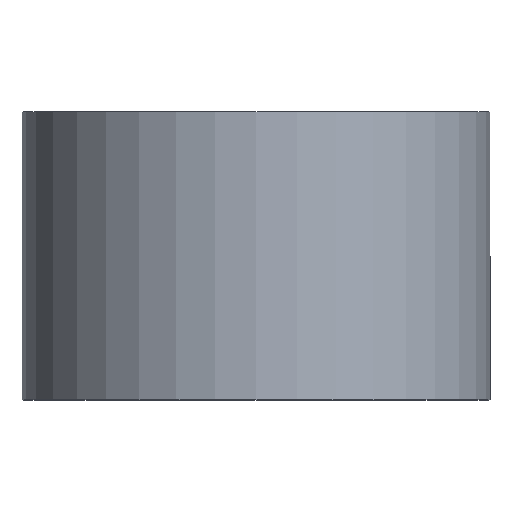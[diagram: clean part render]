
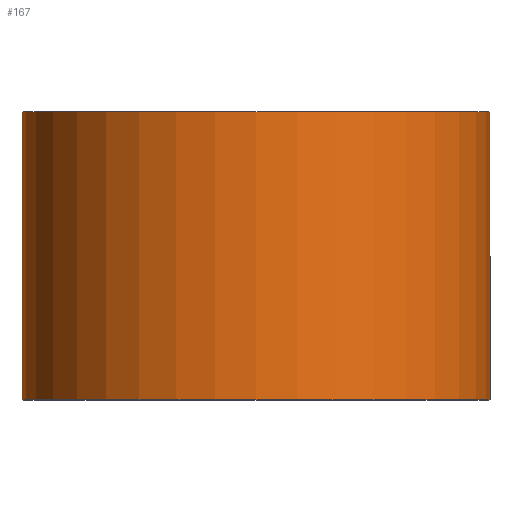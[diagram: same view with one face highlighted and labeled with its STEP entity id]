
A CAD part, top view. The second image highlights one B-rep face of the part: STEP entity #167.
In plain terms, the highlighted cylindrical face has radius 13 mm (diameter 26 mm), a partial arc.
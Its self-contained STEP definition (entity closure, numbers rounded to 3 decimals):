
#3 = LINE ( 'NONE', #77, #67 ) ;
#5 = CARTESIAN_POINT ( 'NONE',  ( -13., 0., 0. ) ) ;
#10 = CARTESIAN_POINT ( 'NONE',  ( 0., 16., 0. ) ) ;
#16 = DIRECTION ( 'NONE',  ( 0., 1., 0. ) ) ;
#20 = LINE ( 'NONE', #264, #36 ) ;
#30 = DIRECTION ( 'NONE',  ( -1., 0., 0. ) ) ;
#36 = VECTOR ( 'NONE', #243, 1000. ) ;
#40 = EDGE_LOOP ( 'NONE', ( #118, #157, #142, #113 ) ) ;
#42 = CARTESIAN_POINT ( 'NONE',  ( 13., 0., 0. ) ) ;
#47 = DIRECTION ( 'NONE',  ( -1., 0., 0. ) ) ;
#50 = CIRCLE ( 'NONE', #171, 13. ) ;
#65 = VERTEX_POINT ( 'NONE', #288 ) ;
#67 = VECTOR ( 'NONE', #154, 1000. ) ;
#68 = VERTEX_POINT ( 'NONE', #5 ) ;
#73 = EDGE_CURVE ( 'NONE', #65, #87, #50, .T. ) ;
#77 = CARTESIAN_POINT ( 'NONE',  ( 13., 0., 0. ) ) ;
#78 = CARTESIAN_POINT ( 'NONE',  ( 0., 0., 0. ) ) ;
#79 = EDGE_CURVE ( 'NONE', #68, #65, #20, .T. ) ;
#80 = CARTESIAN_POINT ( 'NONE',  ( 0., 0., 0. ) ) ;
#85 = CIRCLE ( 'NONE', #238, 13. ) ;
#87 = VERTEX_POINT ( 'NONE', #217 ) ;
#113 = ORIENTED_EDGE ( 'NONE', *, *, #79, .F. ) ;
#118 = ORIENTED_EDGE ( 'NONE', *, *, #189, .T. ) ;
#126 = VERTEX_POINT ( 'NONE', #42 ) ;
#142 = ORIENTED_EDGE ( 'NONE', *, *, #73, .F. ) ;
#154 = DIRECTION ( 'NONE',  ( 0., 1., 0. ) ) ;
#157 = ORIENTED_EDGE ( 'NONE', *, *, #279, .T. ) ;
#161 = DIRECTION ( 'NONE',  ( -1., 0., 0. ) ) ;
#167 = ADVANCED_FACE ( 'NONE', ( #257 ), #229, .T. ) ;
#171 = AXIS2_PLACEMENT_3D ( 'NONE', #10, #244, #47 ) ;
#189 = EDGE_CURVE ( 'NONE', #68, #126, #85, .T. ) ;
#203 = DIRECTION ( 'NONE',  ( 0., 1., 0. ) ) ;
#205 = AXIS2_PLACEMENT_3D ( 'NONE', #78, #16, #161 ) ;
#217 = CARTESIAN_POINT ( 'NONE',  ( 13., 16., 0. ) ) ;
#229 = CYLINDRICAL_SURFACE ( 'NONE', #205, 13. ) ;
#238 = AXIS2_PLACEMENT_3D ( 'NONE', #80, #203, #30 ) ;
#243 = DIRECTION ( 'NONE',  ( 0., 1., 0. ) ) ;
#244 = DIRECTION ( 'NONE',  ( 0., 1., 0. ) ) ;
#257 = FACE_OUTER_BOUND ( 'NONE', #40, .T. ) ;
#264 = CARTESIAN_POINT ( 'NONE',  ( -13., 0., 0. ) ) ;
#279 = EDGE_CURVE ( 'NONE', #126, #87, #3, .T. ) ;
#288 = CARTESIAN_POINT ( 'NONE',  ( -13., 16., 0. ) ) ;
